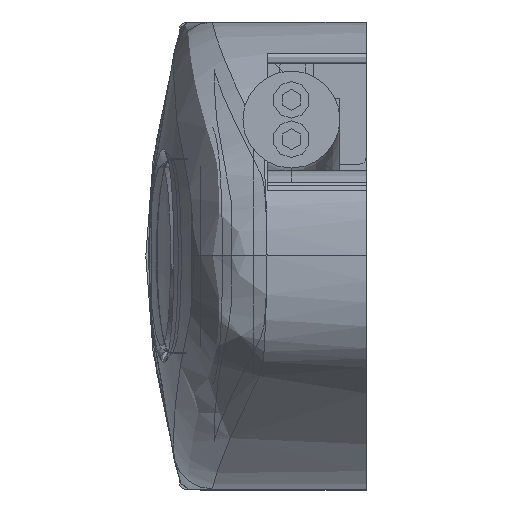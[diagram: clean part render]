
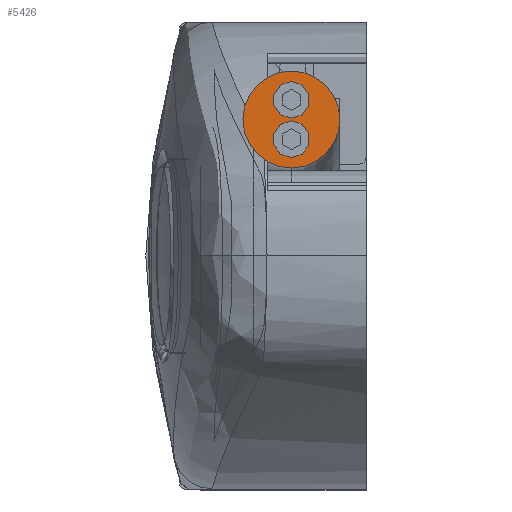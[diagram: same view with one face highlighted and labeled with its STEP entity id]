
A CAD part, left-side view. The second image highlights one B-rep face of the part: STEP entity #5426.
In plain terms, the highlighted planar face has unit normal (-1, 0, 0).
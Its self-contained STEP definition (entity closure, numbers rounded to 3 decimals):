
#969 = DIRECTION ( 'NONE',  ( -1., 0., 0. ) ) ;
#1655 = VERTEX_POINT ( 'NONE', #19234 ) ;
#1886 = DIRECTION ( 'NONE',  ( 0., 0., -1. ) ) ;
#2021 = ORIENTED_EDGE ( 'NONE', *, *, #10466, .F. ) ;
#2073 = CARTESIAN_POINT ( 'NONE',  ( -323.41, 0., -3.75 ) ) ;
#2978 = ORIENTED_EDGE ( 'NONE', *, *, #22389, .F. ) ;
#3348 = EDGE_CURVE ( 'NONE', #24574, #11640, #15193, .T. ) ;
#3528 = DIRECTION ( 'NONE',  ( -1., 0., 0. ) ) ;
#4438 = DIRECTION ( 'NONE',  ( 1., 0., 0. ) ) ;
#4568 = ORIENTED_EDGE ( 'NONE', *, *, #6007, .F. ) ;
#4762 = CARTESIAN_POINT ( 'NONE',  ( -323.41, 0., -5.95 ) ) ;
#4786 = CIRCLE ( 'NONE', #9249, 1.85 ) ;
#4844 = AXIS2_PLACEMENT_3D ( 'NONE', #4762, #18112, #6661 ) ;
#5426 = ADVANCED_FACE ( 'NONE', ( #19544, #15097, #5514 ), #21540, .F. ) ;
#5450 = CARTESIAN_POINT ( 'NONE',  ( -323.41, 0., -5.95 ) ) ;
#5514 = FACE_OUTER_BOUND ( 'NONE', #20444, .T. ) ;
#6007 = EDGE_CURVE ( 'NONE', #1655, #9658, #4786, .T. ) ;
#6236 = DIRECTION ( 'NONE',  ( 1., 0., 0. ) ) ;
#6661 = DIRECTION ( 'NONE',  ( 0., 0., -1. ) ) ;
#7369 = DIRECTION ( 'NONE',  ( 0., 0., -1. ) ) ;
#7576 = VERTEX_POINT ( 'NONE', #2073 ) ;
#8339 = CARTESIAN_POINT ( 'NONE',  ( -323.41, 0., -3.35 ) ) ;
#8691 = ORIENTED_EDGE ( 'NONE', *, *, #15695, .F. ) ;
#8710 = AXIS2_PLACEMENT_3D ( 'NONE', #17699, #6236, #19609 ) ;
#9249 = AXIS2_PLACEMENT_3D ( 'NONE', #24748, #13354, #1886 ) ;
#9658 = VERTEX_POINT ( 'NONE', #8339 ) ;
#10188 = CIRCLE ( 'NONE', #11232, 0.7 ) ;
#10466 = EDGE_CURVE ( 'NONE', #11640, #24574, #12342, .T. ) ;
#11000 = CARTESIAN_POINT ( 'NONE',  ( -323.41, 0., -6.65 ) ) ;
#11232 = AXIS2_PLACEMENT_3D ( 'NONE', #14998, #3528, #16910 ) ;
#11640 = VERTEX_POINT ( 'NONE', #21946 ) ;
#12342 = CIRCLE ( 'NONE', #20790, 0.7 ) ;
#12422 = CARTESIAN_POINT ( 'NONE',  ( -323.41, 0., -4.45 ) ) ;
#13176 = AXIS2_PLACEMENT_3D ( 'NONE', #12422, #969, #14328 ) ;
#13354 = DIRECTION ( 'NONE',  ( 1., 0., 0. ) ) ;
#13400 = EDGE_CURVE ( 'NONE', #7576, #14830, #10188, .T. ) ;
#13591 = AXIS2_PLACEMENT_3D ( 'NONE', #13977, #4438, #17799 ) ;
#13977 = CARTESIAN_POINT ( 'NONE',  ( -323.41, 0., -5.2 ) ) ;
#14328 = DIRECTION ( 'NONE',  ( 0., 0., 1. ) ) ;
#14830 = VERTEX_POINT ( 'NONE', #22347 ) ;
#14998 = CARTESIAN_POINT ( 'NONE',  ( -323.41, 0., -4.45 ) ) ;
#15097 = FACE_BOUND ( 'NONE', #22824, .T. ) ;
#15193 = CIRCLE ( 'NONE', #4844, 0.7 ) ;
#15695 = EDGE_CURVE ( 'NONE', #14830, #7576, #21308, .T. ) ;
#15827 = CIRCLE ( 'NONE', #8710, 1.85 ) ;
#16910 = DIRECTION ( 'NONE',  ( 0., 0., 1. ) ) ;
#16924 = ORIENTED_EDGE ( 'NONE', *, *, #3348, .F. ) ;
#17699 = CARTESIAN_POINT ( 'NONE',  ( -323.41, 0., -5.2 ) ) ;
#17799 = DIRECTION ( 'NONE',  ( 0., 0., -1. ) ) ;
#18112 = DIRECTION ( 'NONE',  ( -1., 0., 0. ) ) ;
#18542 = ORIENTED_EDGE ( 'NONE', *, *, #13400, .F. ) ;
#18805 = DIRECTION ( 'NONE',  ( -1., 0., 0. ) ) ;
#19215 = EDGE_LOOP ( 'NONE', ( #16924, #2021 ) ) ;
#19234 = CARTESIAN_POINT ( 'NONE',  ( -323.41, 0., -7.05 ) ) ;
#19544 = FACE_BOUND ( 'NONE', #19215, .T. ) ;
#19609 = DIRECTION ( 'NONE',  ( 0., 0., -1. ) ) ;
#20444 = EDGE_LOOP ( 'NONE', ( #2978, #4568 ) ) ;
#20790 = AXIS2_PLACEMENT_3D ( 'NONE', #5450, #18805, #7369 ) ;
#21308 = CIRCLE ( 'NONE', #13176, 0.7 ) ;
#21540 = PLANE ( 'NONE',  #13591 ) ;
#21946 = CARTESIAN_POINT ( 'NONE',  ( -323.41, 0., -5.25 ) ) ;
#22347 = CARTESIAN_POINT ( 'NONE',  ( -323.41, 0., -5.15 ) ) ;
#22389 = EDGE_CURVE ( 'NONE', #9658, #1655, #15827, .T. ) ;
#22824 = EDGE_LOOP ( 'NONE', ( #8691, #18542 ) ) ;
#24574 = VERTEX_POINT ( 'NONE', #11000 ) ;
#24748 = CARTESIAN_POINT ( 'NONE',  ( -323.41, 0., -5.2 ) ) ;
